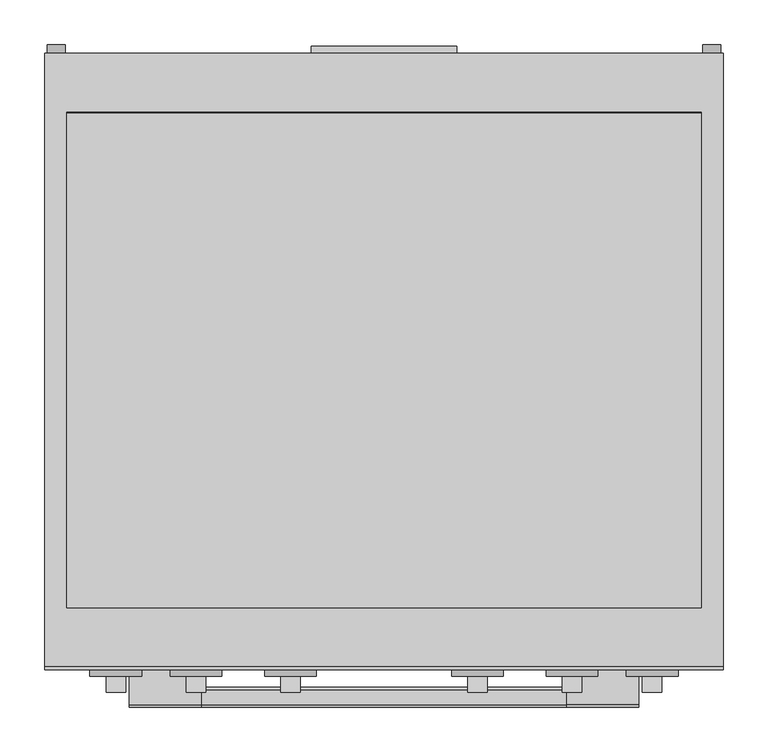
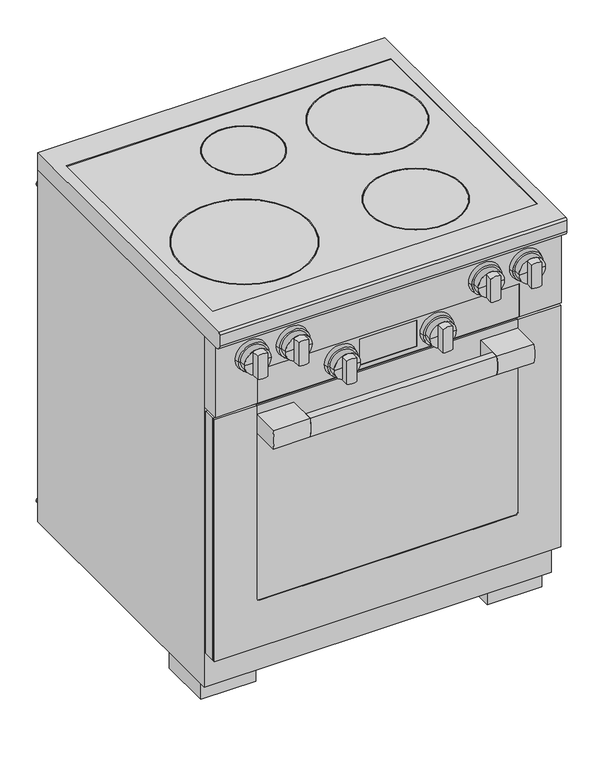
"""IFC4 building model written with IfcOpenShell, lengths in millimetres: proxy geometry, 12298850_USA_HR1422-3_EDST-CLST : 25142281_USA_12298850_HR1422-3_EDST-CLST."""

from ifc_helpers import new_model, si_unit, point, frame, frame_2d, origin, origin_with_axes, place, context, project, spatial, polyline, circle_curve, trimmed, segment, composite_curve, outline, extrude, faceted_brep, source, transform, mapped, element, save
from ifc_brep_helpers import plane_surface, cylinder_surface, revolved_surface, advanced_brep


def specialty_equipment_d15e6850(model_context):
    return source(origin(), model_context, "Body", "SolidModel", [
        extrude(outline(polyline([(-351.0, -617.0), (351.0, -617.0), (351.0, -638.0), (-351.0, -638.0), (-351.0, -617.0)])), frame((0.0, 0.0, 133.0), z_axis=(0.0, 0.0, 1.0), x_axis=(1.0, 0.0, 0.0)), (0.0, 0.0, 1.0), 550.0),
        advanced_brep(
        [(287.0, -664.7, 688.0), (380.0, -664.7, 688.0), (380.0, -664.7, 127.0), (-380.0, -664.7, 127.0), (-380.0, -664.7, 688.0), (-287.0, -664.7, 688.0), (-287.0, -664.7, 687.0), (-379.0, -664.7, 687.0), (-379.0, -664.7, 128.0), (379.0, -664.7, 128.0), (379.0, -664.7, 687.0), (287.0, -664.7, 687.0), (-287.0, -670.0, 688.0), (-380.0, -670.0, 688.0), (-380.0, -670.0, 127.0), (380.0, -670.0, 127.0), (380.0, -670.0, 688.0), (287.0, -670.0, 688.0), (287.0, -670.0, 241.0), (281.0, -670.0, 235.0), (-281.0, -670.0, 235.0), (-287.0, -670.0, 241.0), (-287.0, -668.7, 241.0), (-287.0, -668.7, 687.0), (281.0, -668.7, 235.0), (-281.0, -668.7, 235.0), (287.0, -668.7, 687.0), (287.0, -668.7, 241.0), (379.0, -668.7, 687.0), (379.0, -668.7, 128.0), (-379.0, -668.7, 128.0), (-379.0, -668.7, 687.0)],
        [
            (0, 1),
            (1, 2),
            (2, 3),
            (3, 4),
            (4, 5),
            (5, 6),
            (6, 7),
            (7, 8),
            (8, 9),
            (9, 10),
            (10, 11),
            (11, 0),
            (12, 13),
            (13, 14),
            (14, 15),
            (15, 16),
            (16, 17),
            (17, 18),
            (18, 19, circle_curve(frame((281.0, -670.0, 241.0), z_axis=(0.0, 1.0, 0.0), x_axis=(-1.0, 0.0, 0.0)), 6.0)),
            (19, 20),
            (20, 21, circle_curve(frame((-281.0, -670.0, 241.0), z_axis=(0.0, 1.0, 0.0), x_axis=(-1.0, 0.0, 0.0)), 6.0)),
            (21, 12),
            (21, 22),
            (22, 23),
            (23, 6),
            (5, 12),
            (19, 24),
            (24, 25),
            (25, 20),
            (17, 0),
            (11, 26),
            (26, 27),
            (27, 18),
            (16, 1),
            (15, 2),
            (14, 3),
            (13, 4),
            (25, 22, circle_curve(frame((-281.0, -668.7, 241.0), z_axis=(0.0, 1.0, 0.0), x_axis=(-1.0, 0.0, 0.0)), 6.0)),
            (27, 24, circle_curve(frame((281.0, -668.7, 241.0), z_axis=(0.0, 1.0, 0.0), x_axis=(-1.0, 0.0, 0.0)), 6.0)),
            (28, 29),
            (29, 30),
            (30, 31),
            (31, 23),
            (26, 28),
            (28, 10),
            (9, 29),
            (8, 30),
            (7, 31),
        ],
        [
            plane_surface(frame((-287.0, -664.7, 241.0), z_axis=(0.0, 1.0, 0.0), x_axis=(0.0, 0.0, -1.0))),
            plane_surface(frame((-287.0, -670.0, 241.0), z_axis=(0.0, -1.0, 0.0), x_axis=(0.0, 0.0, 1.0))),
            plane_surface(frame((-287.0, -664.7, 688.0), z_axis=(1.0, 0.0, 0.0), x_axis=(0.0, -1.0, 0.0))),
            plane_surface(frame((-281.0, -664.7, 235.0), z_axis=(0.0, 0.0, 1.0), x_axis=(0.0, -1.0, 0.0))),
            plane_surface(frame((287.0, -664.7, 241.0), z_axis=(-1.0, 0.0, 0.0), x_axis=(0.0, -1.0, 0.0))),
            plane_surface(frame((287.0, -664.7, 688.0), z_axis=(0.0, 0.0, 1.0), x_axis=(0.0, -1.0, 0.0))),
            plane_surface(frame((380.0, -664.7, 688.0), z_axis=(1.0, 0.0, 0.0), x_axis=(0.0, -1.0, 0.0))),
            plane_surface(frame((380.0, -664.7, 127.0), z_axis=(0.0, 0.0, -1.0), x_axis=(0.0, -1.0, 0.0))),
            plane_surface(frame((-380.0, -664.7, 127.0), z_axis=(-1.0, 0.0, 0.0), x_axis=(0.0, -1.0, 0.0))),
            plane_surface(frame((-380.0, -664.7, 688.0), z_axis=(0.0, 0.0, 1.0), x_axis=(0.0, -1.0, 0.0))),
            revolved_surface(polyline([(-287.0, -670.0, 241.0), (-287.0, -668.7, 241.0)]), (-281.0, -670.0, 241.0), (0.0, -1.0, 0.0)),
            revolved_surface(polyline([(275.0, -670.0, 241.0), (275.0, -668.7, 241.0)]), (281.0, -670.0, 241.0), (0.0, -1.0, 0.0)),
            plane_surface(frame((379.0, -668.7, 687.0), z_axis=(0.0, 1.0, 0.0), x_axis=(0.0, 0.0, 1.0))),
            plane_surface(frame((379.0, -664.7, 687.0), z_axis=(-1.0, 0.0, 0.0), x_axis=(0.0, -1.0, 0.0))),
            plane_surface(frame((379.0, -664.7, 128.0), z_axis=(0.0, 0.0, 1.0), x_axis=(0.0, -1.0, 0.0))),
            plane_surface(frame((-379.0, -664.7, 128.0), z_axis=(1.0, 0.0, 0.0), x_axis=(0.0, -1.0, 0.0))),
            plane_surface(frame((-379.0, -664.7, 687.0), z_axis=(0.0, 0.0, -1.0), x_axis=(0.0, -1.0, 0.0))),
        ],
        [
            (0, [[1, 2, 3, 4, 5, 6, 7, 8, 9, 10, 11, 12]]),
            (1, [[13, 14, 15, 16, 17, 18, 19, 20, 21, 22]]),
            (2, [[-22, 23, 24, 25, -6, 26]]),
            (3, [[-20, 27, 28, 29]]),
            (4, [[-18, 30, -12, 31, 32, 33]]),
            (5, [[-1, -30, -17, 34]]),
            (6, [[-2, -34, -16, 35]]),
            (7, [[-3, -35, -15, 36]]),
            (8, [[-4, -36, -14, 37]]),
            (9, [[-5, -37, -13, -26]]),
            (10, [[-21, -29, 38, -23]]),
            (11, [[-19, -33, 39, -27]]),
            (12, [[40, 41, 42, 43, -24, -38, -28, -39, -32, 44]]),
            (13, [[-40, 45, -10, 46]]),
            (14, [[-41, -46, -9, 47]]),
            (15, [[-42, -47, -8, 48]]),
            (16, [[-45, -44, -31, -11]]),
            (16, [[-48, -7, -25, -43]]),
        ],
    ),
        extrude(outline(polyline([(-379.0, -664.7), (379.0, -664.7), (379.0, -668.7), (-379.0, -668.7), (-379.0, -664.7)])), frame((0.0, 0.0, 128.0), z_axis=(0.0, 0.0, 1.0), x_axis=(1.0, 0.0, 0.0)), (0.0, 0.0, 1.0), 559.0),
        extrude(outline(polyline([(-380.0, -638.0), (380.0, -638.0), (380.0, -664.7), (-380.0, -664.7), (-380.0, -638.0)])), frame((0.0, 0.0, 127.0), z_axis=(0.0, 0.0, 1.0), x_axis=(1.0, 0.0, 0.0)), (0.0, 0.0, 1.0), 561.0),
        extrude(outline(composite_curve([segment(polyline([(-668.7, 667.0), (-668.7, 624.0), (-731.0, 624.0)]), True, "CONTINUOUS"), segment(trimmed(circle_curve(frame_2d((-655.4583333, 645.5)), 78.5416667), [point((-731.0, 624.0))], [point((-731.0, 667.0))], False, "CARTESIAN"), True, "CONTINUOUS"), segment(polyline([(-731.0, 667.0), (-668.7, 667.0)]), True, "CONTINUOUS")], self_intersect=False)), frame((-286.0, 0.0, 0.0), z_axis=(1.0, 0.0, 0.0), x_axis=(0.0, 1.0, 0.0)), (0.0, 0.0, 1.0), 81.0),
        extrude(outline(composite_curve([segment(polyline([(-731.0, 667.0), (-668.7, 667.0), (-668.7, 624.0), (-731.0, 624.0)]), True, "CONTINUOUS"), segment(trimmed(circle_curve(frame_2d((-655.4583333, 645.5)), 78.5416667), [point((-731.0, 624.0))], [point((-731.0, 667.0))], False, "CARTESIAN"), True, "CONTINUOUS")], self_intersect=False)), frame((205.0, 0.0, 0.0), z_axis=(1.0, 0.0, 0.0), x_axis=(0.0, 1.0, 0.0)), (0.0, 0.0, 1.0), 81.0),
        extrude(outline(composite_curve([segment(polyline([(-714.0, 624.0), (-731.0, 624.0)]), True, "CONTINUOUS"), segment(trimmed(circle_curve(frame_2d((-655.4583333, 645.5)), 78.5416667), [point((-731.0, 624.0))], [point((-731.0, 667.0))], False, "CARTESIAN"), True, "CONTINUOUS"), segment(polyline([(-731.0, 667.0), (-714.0, 667.0)]), True, "CONTINUOUS"), segment(trimmed(circle_curve(frame_2d((-789.5416667, 645.5)), 78.5416667), [point((-714.0, 667.0))], [point((-714.0, 624.0))], False, "CARTESIAN"), True, "CONTINUOUS")], self_intersect=False)), frame((-205.0, 0.0, 0.0), z_axis=(1.0, 0.0, 0.0), x_axis=(0.0, 1.0, 0.0)), (0.0, 0.0, 1.0), 410.0),
        advanced_brep(
        [(381.0, 0.0, 902.0), (381.0, -688.0, 902.0), (381.0, -692.0, 898.0), (381.0, -692.0, 872.0), (381.0, -682.0, 862.0), (381.0, 0.0, 862.0), (-381.0, 0.0, 902.0), (-381.0, 0.0, 862.0), (-381.0, -682.0, 862.0), (-381.0, -692.0, 872.0), (-381.0, -692.0, 898.0), (-381.0, -688.0, 902.0), (-356.0, -66.0, 902.0), (356.0, -66.0, 902.0), (356.0, -622.0, 902.0), (-356.0, -622.0, 902.0), (356.0, -66.0, 896.4), (-356.0, -66.0, 896.4), (-356.0, -622.0, 896.4), (356.0, -622.0, 896.4)],
        [
            (0, 1),
            (1, 2, circle_curve(frame((381.0, -688.0, 898.0), z_axis=(1.0, 0.0, 0.0), x_axis=(0.0, 0.0, 1.0)), 4.0)),
            (2, 3),
            (3, 4, circle_curve(frame((381.0, -682.0, 872.0), z_axis=(1.0, 0.0, 0.0), x_axis=(0.0, 0.0, 1.0)), 10.0)),
            (4, 5),
            (5, 0),
            (6, 7),
            (7, 8),
            (8, 9, circle_curve(frame((-381.0, -682.0, 872.0), z_axis=(-1.0, 0.0, 0.0), x_axis=(0.0, 0.0, 1.0)), 10.0)),
            (9, 10),
            (10, 11, circle_curve(frame((-381.0, -688.0, 898.0), z_axis=(-1.0, 0.0, 0.0), x_axis=(0.0, 0.0, 1.0)), 4.0)),
            (11, 6),
            (0, 6),
            (11, 1),
            (12, 13),
            (13, 14),
            (14, 15),
            (15, 12),
            (10, 2),
            (9, 3),
            (8, 4),
            (7, 5),
            (16, 17),
            (17, 18),
            (18, 19),
            (19, 16),
            (16, 13),
            (12, 17),
            (15, 18),
            (14, 19),
        ],
        [
            plane_surface(frame((381.0, -688.0, 902.0), z_axis=(1.0, 0.0, 0.0), x_axis=(0.0, -1.0, 0.0))),
            plane_surface(frame((-381.0, -688.0, 902.0), z_axis=(-1.0, 0.0, 0.0), x_axis=(0.0, 1.0, 0.0))),
            plane_surface(frame((381.0, 0.0, 902.0), z_axis=(0.0, 0.0, 1.0), x_axis=(-1.0, 0.0, 0.0))),
            cylinder_surface(frame((-381.0, -688.0, 898.0), z_axis=(1.0, 0.0, 0.0), x_axis=(0.0, 0.0, 1.0)), 4.0),
            plane_surface(frame((381.0, -692.0, 898.0), z_axis=(0.0, -1.0, 0.0), x_axis=(-1.0, 0.0, 0.0))),
            cylinder_surface(frame((-381.0, -682.0, 872.0), z_axis=(1.0, 0.0, 0.0), x_axis=(0.0, 0.0, 1.0)), 10.0),
            plane_surface(frame((381.0, -682.0, 862.0), z_axis=(0.0, 0.0, -1.0), x_axis=(-1.0, 0.0, 0.0))),
            plane_surface(frame((381.0, 0.0, 862.0), z_axis=(0.0, 1.0, 0.0), x_axis=(-1.0, 0.0, 0.0))),
            plane_surface(frame((-356.0, -66.0, 896.4), z_axis=(0.0, 0.0, 1.0), x_axis=(1.0, 0.0, 0.0))),
            plane_surface(frame((356.0, -66.0, 902.0), z_axis=(0.0, -1.0, 0.0), x_axis=(0.0, 0.0, -1.0))),
            plane_surface(frame((-356.0, -66.0, 902.0), z_axis=(1.0, 0.0, 0.0), x_axis=(0.0, 0.0, -1.0))),
            plane_surface(frame((-356.0, -622.0, 902.0), z_axis=(0.0, 1.0, 0.0), x_axis=(0.0, 0.0, -1.0))),
            plane_surface(frame((356.0, -622.0, 902.0), z_axis=(-1.0, 0.0, 0.0), x_axis=(0.0, 0.0, -1.0))),
        ],
        [
            (0, [[1, 2, 3, 4, 5, 6]]),
            (1, [[7, 8, 9, 10, 11, 12]]),
            (2, [[-1, 13, -12, 14], [15, 16, 17, 18]]),
            (3, [[-2, -14, -11, 19]]),
            (4, [[-3, -19, -10, 20]]),
            (5, [[-4, -20, -9, 21]]),
            (6, [[-5, -21, -8, 22]]),
            (7, [[-6, -22, -7, -13]]),
            (8, [[23, 24, 25, 26]]),
            (9, [[-23, 27, -15, 28]]),
            (10, [[-24, -28, -18, 29]]),
            (11, [[-25, -29, -17, 30]]),
            (12, [[-26, -30, -16, -27]]),
        ],
    ),
        extrude(outline(polyline([(356.0, -66.0), (356.0, -622.0), (-356.0, -622.0), (-356.0, -66.0), (356.0, -66.0)])), frame((0.0, 0.0, 896.4), z_axis=(0.0, 0.0, 1.0), x_axis=(1.0, 0.0, 0.0)), (0.0, 0.0, 1.0), 4.0),
        extrude(outline(polyline([(356.0, -67.0), (356.0, -633.0), (-356.0, -633.0), (-356.0, -67.0), (356.0, -67.0)])), frame((0.0, 0.0, 870.0), z_axis=(0.0, 0.0, 1.0), x_axis=(1.0, 0.0, 0.0)), (0.0, 0.0, 1.0), 31.0),
        extrude(outline(composite_curve([segment(trimmed(circle_curve(frame_2d((-38.0, -189.0)), 82.0), [point((44.0, -189.0))], [point((-120.0, -189.0))], False, "CARTESIAN"), True, "CONTINUOUS"), segment(trimmed(circle_curve(frame_2d((-38.0, -189.0)), 82.0), [point((-120.0, -189.0))], [point((44.0, -189.0))], False, "CARTESIAN"), True, "CONTINUOUS")], self_intersect=False), holes=[composite_curve([segment(trimmed(circle_curve(frame_2d((-38.0, -189.0)), 80.0), [point((42.0, -189.0))], [point((-118.0, -189.0))], True, "CARTESIAN"), True, "CONTINUOUS"), segment(trimmed(circle_curve(frame_2d((-38.0, -189.0)), 80.0), [point((-118.0, -189.0))], [point((42.0, -189.0))], True, "CARTESIAN"), True, "CONTINUOUS")], self_intersect=False)]), frame((0.0, 0.0, 900.4), z_axis=(0.0, 0.0, 1.0), x_axis=(1.0, 0.0, 0.0)), (0.0, 0.0, 1.0), 1.0),
        extrude(outline(composite_curve([segment(trimmed(circle_curve(frame_2d((217.0, -218.0)), 117.0), [point((334.0, -218.0))], [point((100.0, -218.0))], False, "CARTESIAN"), True, "CONTINUOUS"), segment(trimmed(circle_curve(frame_2d((217.0, -218.0)), 117.0), [point((100.0, -218.0))], [point((334.0, -218.0))], False, "CARTESIAN"), True, "CONTINUOUS")], self_intersect=False), holes=[composite_curve([segment(trimmed(circle_curve(frame_2d((217.0, -218.0)), 115.0), [point((332.0, -218.0))], [point((102.0, -218.0))], True, "CARTESIAN"), True, "CONTINUOUS"), segment(trimmed(circle_curve(frame_2d((217.0, -218.0)), 115.0), [point((102.0, -218.0))], [point((332.0, -218.0))], True, "CARTESIAN"), True, "CONTINUOUS")], self_intersect=False)]), frame((0.0, 0.0, 900.4), z_axis=(0.0, 0.0, 1.0), x_axis=(1.0, 0.0, 0.0)), (0.0, 0.0, 1.0), 1.0),
        extrude(outline(composite_curve([segment(trimmed(circle_curve(frame_2d((165.0, -492.0)), 102.0), [point((267.0, -492.0))], [point((63.0, -492.0))], False, "CARTESIAN"), True, "CONTINUOUS"), segment(trimmed(circle_curve(frame_2d((165.0, -492.0)), 102.0), [point((63.0, -492.0))], [point((267.0, -492.0))], False, "CARTESIAN"), True, "CONTINUOUS")], self_intersect=False), holes=[composite_curve([segment(trimmed(circle_curve(frame_2d((165.0, -492.0)), 100.0), [point((265.0, -492.0))], [point((65.0, -492.0))], True, "CARTESIAN"), True, "CONTINUOUS"), segment(trimmed(circle_curve(frame_2d((165.0, -492.0)), 100.0), [point((65.0, -492.0))], [point((265.0, -492.0))], True, "CARTESIAN"), True, "CONTINUOUS")], self_intersect=False)]), frame((0.0, 0.0, 900.4), z_axis=(0.0, 0.0, 1.0), x_axis=(1.0, 0.0, 0.0)), (0.0, 0.0, 1.0), 1.0),
        extrude(outline(composite_curve([segment(trimmed(circle_curve(frame_2d((-188.0, -452.0)), 142.0), [point((-46.0, -452.0))], [point((-330.0, -452.0))], False, "CARTESIAN"), True, "CONTINUOUS"), segment(trimmed(circle_curve(frame_2d((-188.0, -452.0)), 142.0), [point((-330.0, -452.0))], [point((-46.0, -452.0))], False, "CARTESIAN"), True, "CONTINUOUS")], self_intersect=False), holes=[composite_curve([segment(trimmed(circle_curve(frame_2d((-188.0, -452.0)), 140.0), [point((-48.0, -452.0))], [point((-328.0, -452.0))], True, "CARTESIAN"), True, "CONTINUOUS"), segment(trimmed(circle_curve(frame_2d((-188.0, -452.0)), 140.0), [point((-328.0, -452.0))], [point((-48.0, -452.0))], True, "CARTESIAN"), True, "CONTINUOUS")], self_intersect=False)]), frame((0.0, 0.0, 900.4), z_axis=(0.0, 0.0, 1.0), x_axis=(1.0, 0.0, 0.0)), (0.0, 0.0, 1.0), 1.0),
        advanced_brep(
        [(301.0, -683.0, 813.0), (330.0, -683.0, 813.0), (272.0, -683.0, 813.0), (272.0, -699.0, 813.0), (330.0, -699.0, 813.0), (301.0, -699.0, 813.0)],
        [
            (0, 1),
            (1, 2, circle_curve(frame((301.0, -683.0, 813.0), z_axis=(0.0, 1.0, 0.0), x_axis=(1.0, 0.0, 0.0)), 29.0)),
            (2, 0),
            (2, 1, circle_curve(frame((301.0, -683.0, 813.0), z_axis=(0.0, 1.0, 0.0), x_axis=(1.0, 0.0, 0.0)), 29.0)),
            (3, 4, circle_curve(frame((301.0, -699.0, 813.0), z_axis=(0.0, -1.0, 0.0), x_axis=(1.0, 0.0, 0.0)), 29.0)),
            (4, 5),
            (5, 3),
            (4, 3, circle_curve(frame((301.0, -699.0, 813.0), z_axis=(0.0, -1.0, 0.0), x_axis=(1.0, 0.0, 0.0)), 29.0)),
            (1, 4),
            (3, 2),
        ],
        [
            plane_surface(frame((301.0, -683.0, 813.0), z_axis=(0.0, 1.0, 0.0), x_axis=(1.0, 0.0, 0.0))),
            plane_surface(frame((301.0, -699.0, 813.0), z_axis=(0.0, -1.0, 0.0), x_axis=(1.0, 0.0, 0.0))),
            cylinder_surface(frame((301.0, 751.3738435, 813.0), z_axis=(0.0, 1.0, 0.0), x_axis=(1.0, 0.0, 0.0)), 29.0),
        ],
        [
            (0, [[1, 2, 3]]),
            (0, [[-3, 4, -1]]),
            (1, [[5, 6, 7]]),
            (1, [[8, -7, -6]]),
            (2, [[-2, 9, -5, 10]]),
            (2, [[-4, -10, -8, -9]]),
        ],
    ),
        extrude(outline(composite_curve([segment(polyline([(786.1671843, 312.0), (839.8328157, 312.0)]), True, "CONTINUOUS"), segment(trimmed(circle_curve(frame_2d((813.0, 301.0)), 29.0), [point((839.8328157, 312.0))], [point((839.8328157, 290.0))], False, "CARTESIAN"), True, "CONTINUOUS"), segment(polyline([(839.8328157, 290.0), (786.1671843, 290.0)]), True, "CONTINUOUS"), segment(trimmed(circle_curve(frame_2d((813.0, 301.0)), 29.0), [point((786.1671843, 290.0))], [point((786.1671843, 312.0))], False, "CARTESIAN"), True, "CONTINUOUS")], self_intersect=False)), frame((0.0, -717.0, 0.0), z_axis=(0.0, 1.0, 0.0), x_axis=(0.0, 0.0, 1.0)), (0.0, 0.0, 1.0), 18.0),
        advanced_brep(
        [(211.0, -683.0, 813.0), (240.0, -683.0, 813.0), (182.0, -683.0, 813.0), (182.0, -699.0, 813.0), (240.0, -699.0, 813.0), (211.0, -699.0, 813.0)],
        [
            (0, 1),
            (1, 2, circle_curve(frame((211.0, -683.0, 813.0), z_axis=(0.0, 1.0, 0.0), x_axis=(1.0, 0.0, 0.0)), 29.0)),
            (2, 0),
            (2, 1, circle_curve(frame((211.0, -683.0, 813.0), z_axis=(0.0, 1.0, 0.0), x_axis=(1.0, 0.0, 0.0)), 29.0)),
            (3, 4, circle_curve(frame((211.0, -699.0, 813.0), z_axis=(0.0, -1.0, 0.0), x_axis=(1.0, 0.0, 0.0)), 29.0)),
            (4, 5),
            (5, 3),
            (4, 3, circle_curve(frame((211.0, -699.0, 813.0), z_axis=(0.0, -1.0, 0.0), x_axis=(1.0, 0.0, 0.0)), 29.0)),
            (1, 4),
            (3, 2),
        ],
        [
            plane_surface(frame((211.0, -683.0, 813.0), z_axis=(0.0, 1.0, 0.0), x_axis=(1.0, 0.0, 0.0))),
            plane_surface(frame((211.0, -699.0, 813.0), z_axis=(0.0, -1.0, 0.0), x_axis=(1.0, 0.0, 0.0))),
            cylinder_surface(frame((211.0, 751.3738435, 813.0), z_axis=(0.0, 1.0, 0.0), x_axis=(1.0, 0.0, 0.0)), 29.0),
        ],
        [
            (0, [[1, 2, 3]]),
            (0, [[-3, 4, -1]]),
            (1, [[5, 6, 7]]),
            (1, [[8, -7, -6]]),
            (2, [[-2, 9, -5, 10]]),
            (2, [[-4, -10, -8, -9]]),
        ],
    ),
        advanced_brep(
        [(-211.0, -683.0, 813.0), (-182.0, -683.0, 813.0), (-240.0, -683.0, 813.0), (-240.0, -699.0, 813.0), (-182.0, -699.0, 813.0), (-211.0, -699.0, 813.0)],
        [
            (0, 1),
            (1, 2, circle_curve(frame((-211.0, -683.0, 813.0), z_axis=(0.0, 1.0, 0.0), x_axis=(1.0, 0.0, 0.0)), 29.0)),
            (2, 0),
            (2, 1, circle_curve(frame((-211.0, -683.0, 813.0), z_axis=(0.0, 1.0, 0.0), x_axis=(1.0, 0.0, 0.0)), 29.0)),
            (3, 4, circle_curve(frame((-211.0, -699.0, 813.0), z_axis=(0.0, -1.0, 0.0), x_axis=(1.0, 0.0, 0.0)), 29.0)),
            (4, 5),
            (5, 3),
            (4, 3, circle_curve(frame((-211.0, -699.0, 813.0), z_axis=(0.0, -1.0, 0.0), x_axis=(1.0, 0.0, 0.0)), 29.0)),
            (1, 4),
            (3, 2),
        ],
        [
            plane_surface(frame((-211.0, -683.0, 813.0), z_axis=(0.0, 1.0, 0.0), x_axis=(1.0, 0.0, 0.0))),
            plane_surface(frame((-211.0, -699.0, 813.0), z_axis=(0.0, -1.0, 0.0), x_axis=(1.0, 0.0, 0.0))),
            cylinder_surface(frame((-211.0, 751.3738435, 813.0), z_axis=(0.0, 1.0, 0.0), x_axis=(1.0, 0.0, 0.0)), 29.0),
        ],
        [
            (0, [[1, 2, 3]]),
            (0, [[-3, 4, -1]]),
            (1, [[5, 6, 7]]),
            (1, [[8, -7, -6]]),
            (2, [[-2, 9, -5, 10]]),
            (2, [[-4, -10, -8, -9]]),
        ],
    ),
        advanced_brep(
        [(-301.0, -683.0, 813.0), (-272.0, -683.0, 813.0), (-330.0, -683.0, 813.0), (-330.0, -699.0, 813.0), (-272.0, -699.0, 813.0), (-301.0, -699.0, 813.0)],
        [
            (0, 1),
            (1, 2, circle_curve(frame((-301.0, -683.0, 813.0), z_axis=(0.0, 1.0, 0.0), x_axis=(1.0, 0.0, 0.0)), 29.0)),
            (2, 0),
            (2, 1, circle_curve(frame((-301.0, -683.0, 813.0), z_axis=(0.0, 1.0, 0.0), x_axis=(1.0, 0.0, 0.0)), 29.0)),
            (3, 4, circle_curve(frame((-301.0, -699.0, 813.0), z_axis=(0.0, -1.0, 0.0), x_axis=(1.0, 0.0, 0.0)), 29.0)),
            (4, 5),
            (5, 3),
            (4, 3, circle_curve(frame((-301.0, -699.0, 813.0), z_axis=(0.0, -1.0, 0.0), x_axis=(1.0, 0.0, 0.0)), 29.0)),
            (1, 4),
            (3, 2),
        ],
        [
            plane_surface(frame((-301.0, -683.0, 813.0), z_axis=(0.0, 1.0, 0.0), x_axis=(1.0, 0.0, 0.0))),
            plane_surface(frame((-301.0, -699.0, 813.0), z_axis=(0.0, -1.0, 0.0), x_axis=(1.0, 0.0, 0.0))),
            cylinder_surface(frame((-301.0, 751.3738435, 813.0), z_axis=(0.0, 1.0, 0.0), x_axis=(1.0, 0.0, 0.0)), 29.0),
        ],
        [
            (0, [[1, 2, 3]]),
            (0, [[-3, 4, -1]]),
            (1, [[5, 6, 7]]),
            (1, [[8, -7, -6]]),
            (2, [[-2, 9, -5, 10]]),
            (2, [[-4, -10, -8, -9]]),
        ],
    ),
        extrude(outline(composite_curve([segment(trimmed(circle_curve(frame_2d((813.0, 211.0)), 29.0), [point((786.1671843, 200.0))], [point((786.1671843, 222.0))], False, "CARTESIAN"), True, "CONTINUOUS"), segment(polyline([(786.1671843, 222.0), (839.8328157, 222.0)]), True, "CONTINUOUS"), segment(trimmed(circle_curve(frame_2d((813.0, 211.0)), 29.0), [point((839.8328157, 222.0))], [point((839.8328157, 200.0))], False, "CARTESIAN"), True, "CONTINUOUS"), segment(polyline([(839.8328157, 200.0), (786.1671843, 200.0)]), True, "CONTINUOUS")], self_intersect=False)), frame((0.0, -717.0, 0.0), z_axis=(0.0, 1.0, 0.0), x_axis=(0.0, 0.0, 1.0)), (0.0, 0.0, 1.0), 18.0),
        extrude(outline(composite_curve([segment(polyline([(839.8328157, -222.0), (786.1671843, -222.0)]), True, "CONTINUOUS"), segment(trimmed(circle_curve(frame_2d((813.0, -211.0)), 29.0), [point((786.1671843, -222.0))], [point((786.1671843, -200.0))], False, "CARTESIAN"), True, "CONTINUOUS"), segment(polyline([(786.1671843, -200.0), (839.8328157, -200.0)]), True, "CONTINUOUS"), segment(trimmed(circle_curve(frame_2d((813.0, -211.0)), 29.0), [point((839.8328157, -200.0))], [point((839.8328157, -222.0))], False, "CARTESIAN"), True, "CONTINUOUS")], self_intersect=False)), frame((0.0, -717.0, 0.0), z_axis=(0.0, 1.0, 0.0), x_axis=(0.0, 0.0, 1.0)), (0.0, 0.0, 1.0), 18.0),
        extrude(outline(composite_curve([segment(polyline([(839.8328157, -312.0), (786.1671843, -312.0)]), True, "CONTINUOUS"), segment(trimmed(circle_curve(frame_2d((813.0, -301.0)), 29.0), [point((786.1671843, -312.0))], [point((786.1671843, -290.0))], False, "CARTESIAN"), True, "CONTINUOUS"), segment(polyline([(786.1671843, -290.0), (839.8328157, -290.0)]), True, "CONTINUOUS"), segment(trimmed(circle_curve(frame_2d((813.0, -301.0)), 29.0), [point((839.8328157, -290.0))], [point((839.8328157, -312.0))], False, "CARTESIAN"), True, "CONTINUOUS")], self_intersect=False)), frame((0.0, -717.0, 0.0), z_axis=(0.0, 1.0, 0.0), x_axis=(0.0, 0.0, 1.0)), (0.0, 0.0, 1.0), 18.0),
        advanced_brep(
        [(105.0, -683.0, 733.0), (134.0, -683.0, 733.0), (76.0, -683.0, 733.0), (76.0, -699.0, 733.0), (134.0, -699.0, 733.0), (105.0, -699.0, 733.0)],
        [
            (0, 1),
            (1, 2, circle_curve(frame((105.0, -683.0, 733.0), z_axis=(0.0, 1.0, 0.0), x_axis=(1.0, 0.0, 0.0)), 29.0)),
            (2, 0),
            (2, 1, circle_curve(frame((105.0, -683.0, 733.0), z_axis=(0.0, 1.0, 0.0), x_axis=(1.0, 0.0, 0.0)), 29.0)),
            (3, 4, circle_curve(frame((105.0, -699.0, 733.0), z_axis=(0.0, -1.0, 0.0), x_axis=(1.0, 0.0, 0.0)), 29.0)),
            (4, 5),
            (5, 3),
            (4, 3, circle_curve(frame((105.0, -699.0, 733.0), z_axis=(0.0, -1.0, 0.0), x_axis=(1.0, 0.0, 0.0)), 29.0)),
            (1, 4),
            (3, 2),
        ],
        [
            plane_surface(frame((105.0, -683.0, 733.0), z_axis=(0.0, 1.0, 0.0), x_axis=(1.0, 0.0, 0.0))),
            plane_surface(frame((105.0, -699.0, 733.0), z_axis=(0.0, -1.0, 0.0), x_axis=(1.0, 0.0, 0.0))),
            cylinder_surface(frame((105.0, 751.3738435, 733.0), z_axis=(0.0, 1.0, 0.0), x_axis=(1.0, 0.0, 0.0)), 29.0),
        ],
        [
            (0, [[1, 2, 3]]),
            (0, [[-3, 4, -1]]),
            (1, [[5, 6, 7]]),
            (1, [[8, -7, -6]]),
            (2, [[-2, 9, -5, 10]]),
            (2, [[-4, -10, -8, -9]]),
        ],
    ),
        advanced_brep(
        [(-105.0, -683.0, 733.0), (-76.0, -683.0, 733.0), (-134.0, -683.0, 733.0), (-134.0, -699.0, 733.0), (-76.0, -699.0, 733.0), (-105.0, -699.0, 733.0)],
        [
            (0, 1),
            (1, 2, circle_curve(frame((-105.0, -683.0, 733.0), z_axis=(0.0, 1.0, 0.0), x_axis=(1.0, 0.0, 0.0)), 29.0)),
            (2, 0),
            (2, 1, circle_curve(frame((-105.0, -683.0, 733.0), z_axis=(0.0, 1.0, 0.0), x_axis=(1.0, 0.0, 0.0)), 29.0)),
            (3, 4, circle_curve(frame((-105.0, -699.0, 733.0), z_axis=(0.0, -1.0, 0.0), x_axis=(1.0, 0.0, 0.0)), 29.0)),
            (4, 5),
            (5, 3),
            (4, 3, circle_curve(frame((-105.0, -699.0, 733.0), z_axis=(0.0, -1.0, 0.0), x_axis=(1.0, 0.0, 0.0)), 29.0)),
            (1, 4),
            (3, 2),
        ],
        [
            plane_surface(frame((-105.0, -683.0, 733.0), z_axis=(0.0, 1.0, 0.0), x_axis=(1.0, 0.0, 0.0))),
            plane_surface(frame((-105.0, -699.0, 733.0), z_axis=(0.0, -1.0, 0.0), x_axis=(1.0, 0.0, 0.0))),
            cylinder_surface(frame((-105.0, 751.3738435, 733.0), z_axis=(0.0, 1.0, 0.0), x_axis=(1.0, 0.0, 0.0)), 29.0),
        ],
        [
            (0, [[1, 2, 3]]),
            (0, [[-3, 4, -1]]),
            (1, [[5, 6, 7]]),
            (1, [[8, -7, -6]]),
            (2, [[-2, 9, -5, 10]]),
            (2, [[-4, -10, -8, -9]]),
        ],
    ),
        extrude(outline(composite_curve([segment(polyline([(759.8328157, -116.0), (706.1671843, -116.0)]), True, "CONTINUOUS"), segment(trimmed(circle_curve(frame_2d((733.0, -105.0)), 29.0), [point((706.1671843, -116.0))], [point((706.1671843, -94.0))], False, "CARTESIAN"), True, "CONTINUOUS"), segment(polyline([(706.1671843, -94.0), (759.8328157, -94.0)]), True, "CONTINUOUS"), segment(trimmed(circle_curve(frame_2d((733.0, -105.0)), 29.0), [point((759.8328157, -94.0))], [point((759.8328157, -116.0))], False, "CARTESIAN"), True, "CONTINUOUS")], self_intersect=False)), frame((0.0, -717.0, 0.0), z_axis=(0.0, 1.0, 0.0), x_axis=(0.0, 0.0, 1.0)), (0.0, 0.0, 1.0), 18.0),
        extrude(outline(composite_curve([segment(polyline([(759.8328157, 94.0), (706.1671843, 94.0)]), True, "CONTINUOUS"), segment(trimmed(circle_curve(frame_2d((733.0, 105.0)), 29.0), [point((706.1671843, 94.0))], [point((706.1671843, 116.0))], False, "CARTESIAN"), True, "CONTINUOUS"), segment(polyline([(706.1671843, 116.0), (759.8328157, 116.0)]), True, "CONTINUOUS"), segment(trimmed(circle_curve(frame_2d((733.0, 105.0)), 29.0), [point((759.8328157, 116.0))], [point((759.8328157, 94.0))], False, "CARTESIAN"), True, "CONTINUOUS")], self_intersect=False)), frame((0.0, -717.0, 0.0), z_axis=(0.0, 1.0, 0.0), x_axis=(0.0, 0.0, 1.0)), (0.0, 0.0, 1.0), 18.0),
        advanced_brep(
        [(267.7632698, -683.0, 813.0), (334.2367302, -683.0, 813.0), (301.0, -683.0, 813.0), (266.0, -673.0, 813.0), (336.0, -673.0, 813.0), (301.0, -673.0, 813.0)],
        [
            (0, 1, circle_curve(frame((301.0, -683.0, 813.0), z_axis=(0.0, -1.0, 0.0), x_axis=(1.0, 0.0, 0.0)), 33.2367302)),
            (1, 2),
            (2, 0),
            (1, 0, circle_curve(frame((301.0, -683.0, 813.0), z_axis=(0.0, -1.0, 0.0), x_axis=(1.0, 0.0, 0.0)), 33.2367302)),
            (3, 4, circle_curve(frame((301.0, -673.0, 813.0), z_axis=(0.0, -1.0, 0.0), x_axis=(1.0, 0.0, 0.0)), 35.0)),
            (4, 1),
            (0, 3),
            (4, 3, circle_curve(frame((301.0, -673.0, 813.0), z_axis=(0.0, -1.0, 0.0), x_axis=(1.0, 0.0, 0.0)), 35.0)),
            (5, 4),
            (3, 5),
        ],
        [
            plane_surface(frame((301.0, -683.0, 813.0), z_axis=(0.0, -1.0, 0.0), x_axis=(1.0, 0.0, 0.0))),
            revolved_surface(polyline([(334.2367302, -683.0, 813.0), (336.0, -673.0, 813.0)]), (301.0, 751.3738435, 813.0), (0.0, 1.0, 0.0)),
            plane_surface(frame((301.0, -673.0, 813.0), z_axis=(0.0, 1.0, 0.0), x_axis=(1.0, 0.0, 0.0))),
        ],
        [
            (0, [[1, 2, 3]]),
            (0, [[4, -3, -2]]),
            (1, [[5, 6, -1, 7]]),
            (1, [[8, -7, -4, -6]]),
            (2, [[9, -5, 10]]),
            (2, [[-10, -8, -9]]),
        ],
    ),
        advanced_brep(
        [(177.7632698, -683.0, 813.0), (244.2367302, -683.0, 813.0), (211.0, -683.0, 813.0), (176.0, -673.0, 813.0), (246.0, -673.0, 813.0), (211.0, -673.0, 813.0)],
        [
            (0, 1, circle_curve(frame((211.0, -683.0, 813.0), z_axis=(0.0, -1.0, 0.0), x_axis=(1.0, 0.0, 0.0)), 33.2367302)),
            (1, 2),
            (2, 0),
            (1, 0, circle_curve(frame((211.0, -683.0, 813.0), z_axis=(0.0, -1.0, 0.0), x_axis=(1.0, 0.0, 0.0)), 33.2367302)),
            (3, 4, circle_curve(frame((211.0, -673.0, 813.0), z_axis=(0.0, -1.0, 0.0), x_axis=(1.0, 0.0, 0.0)), 35.0)),
            (4, 1),
            (0, 3),
            (4, 3, circle_curve(frame((211.0, -673.0, 813.0), z_axis=(0.0, -1.0, 0.0), x_axis=(1.0, 0.0, 0.0)), 35.0)),
            (5, 4),
            (3, 5),
        ],
        [
            plane_surface(frame((211.0, -683.0, 813.0), z_axis=(0.0, -1.0, 0.0), x_axis=(1.0, 0.0, 0.0))),
            revolved_surface(polyline([(244.2367302, -683.0, 813.0), (246.0, -673.0, 813.0)]), (211.0, 751.3738435, 813.0), (0.0, 1.0, 0.0)),
            plane_surface(frame((211.0, -673.0, 813.0), z_axis=(0.0, 1.0, 0.0), x_axis=(1.0, 0.0, 0.0))),
        ],
        [
            (0, [[1, 2, 3]]),
            (0, [[4, -3, -2]]),
            (1, [[5, 6, -1, 7]]),
            (1, [[8, -7, -4, -6]]),
            (2, [[9, -5, 10]]),
            (2, [[-10, -8, -9]]),
        ],
    ),
        advanced_brep(
        [(-244.2367302, -683.0, 813.0), (-177.7632698, -683.0, 813.0), (-211.0, -683.0, 813.0), (-246.0, -673.0, 813.0), (-176.0, -673.0, 813.0), (-211.0, -673.0, 813.0)],
        [
            (0, 1, circle_curve(frame((-211.0, -683.0, 813.0), z_axis=(0.0, -1.0, 0.0), x_axis=(1.0, 0.0, 0.0)), 33.2367302)),
            (1, 2),
            (2, 0),
            (1, 0, circle_curve(frame((-211.0, -683.0, 813.0), z_axis=(0.0, -1.0, 0.0), x_axis=(1.0, 0.0, 0.0)), 33.2367302)),
            (3, 4, circle_curve(frame((-211.0, -673.0, 813.0), z_axis=(0.0, -1.0, 0.0), x_axis=(1.0, 0.0, 0.0)), 35.0)),
            (4, 1),
            (0, 3),
            (4, 3, circle_curve(frame((-211.0, -673.0, 813.0), z_axis=(0.0, -1.0, 0.0), x_axis=(1.0, 0.0, 0.0)), 35.0)),
            (5, 4),
            (3, 5),
        ],
        [
            plane_surface(frame((-211.0, -683.0, 813.0), z_axis=(0.0, -1.0, 0.0), x_axis=(1.0, 0.0, 0.0))),
            revolved_surface(polyline([(-177.7632698, -683.0, 813.0), (-176.0, -673.0, 813.0)]), (-211.0, 751.3738435, 813.0), (0.0, 1.0, 0.0)),
            plane_surface(frame((-211.0, -673.0, 813.0), z_axis=(0.0, 1.0, 0.0), x_axis=(1.0, 0.0, 0.0))),
        ],
        [
            (0, [[1, 2, 3]]),
            (0, [[4, -3, -2]]),
            (1, [[5, 6, -1, 7]]),
            (1, [[8, -7, -4, -6]]),
            (2, [[9, -5, 10]]),
            (2, [[-10, -8, -9]]),
        ],
    ),
        advanced_brep(
        [(-334.2367302, -683.0, 813.0), (-267.7632698, -683.0, 813.0), (-301.0, -683.0, 813.0), (-336.0, -673.0, 813.0), (-266.0, -673.0, 813.0), (-301.0, -673.0, 813.0)],
        [
            (0, 1, circle_curve(frame((-301.0, -683.0, 813.0), z_axis=(0.0, -1.0, 0.0), x_axis=(1.0, 0.0, 0.0)), 33.2367302)),
            (1, 2),
            (2, 0),
            (1, 0, circle_curve(frame((-301.0, -683.0, 813.0), z_axis=(0.0, -1.0, 0.0), x_axis=(1.0, 0.0, 0.0)), 33.2367302)),
            (3, 4, circle_curve(frame((-301.0, -673.0, 813.0), z_axis=(0.0, -1.0, 0.0), x_axis=(1.0, 0.0, 0.0)), 35.0)),
            (4, 1),
            (0, 3),
            (4, 3, circle_curve(frame((-301.0, -673.0, 813.0), z_axis=(0.0, -1.0, 0.0), x_axis=(1.0, 0.0, 0.0)), 35.0)),
            (5, 4),
            (3, 5),
        ],
        [
            plane_surface(frame((-301.0, -683.0, 813.0), z_axis=(0.0, -1.0, 0.0), x_axis=(1.0, 0.0, 0.0))),
            revolved_surface(polyline([(-267.7632698, -683.0, 813.0), (-266.0, -673.0, 813.0)]), (-301.0, 751.3738435, 813.0), (0.0, 1.0, 0.0)),
            plane_surface(frame((-301.0, -673.0, 813.0), z_axis=(0.0, 1.0, 0.0), x_axis=(1.0, 0.0, 0.0))),
        ],
        [
            (0, [[1, 2, 3]]),
            (0, [[4, -3, -2]]),
            (1, [[5, 6, -1, 7]]),
            (1, [[8, -7, -4, -6]]),
            (2, [[9, -5, 10]]),
            (2, [[-10, -8, -9]]),
        ],
    ),
        advanced_brep(
        [(71.7632698, -683.0, 733.0), (138.2367302, -683.0, 733.0), (105.0, -683.0, 733.0), (70.0, -673.0, 733.0), (140.0, -673.0, 733.0), (105.0, -673.0, 733.0)],
        [
            (0, 1, circle_curve(frame((105.0, -683.0, 733.0), z_axis=(0.0, -1.0, 0.0), x_axis=(1.0, 0.0, 0.0)), 33.2367302)),
            (1, 2),
            (2, 0),
            (1, 0, circle_curve(frame((105.0, -683.0, 733.0), z_axis=(0.0, -1.0, 0.0), x_axis=(1.0, 0.0, 0.0)), 33.2367302)),
            (3, 4, circle_curve(frame((105.0, -673.0, 733.0), z_axis=(0.0, -1.0, 0.0), x_axis=(1.0, 0.0, 0.0)), 35.0)),
            (4, 1),
            (0, 3),
            (4, 3, circle_curve(frame((105.0, -673.0, 733.0), z_axis=(0.0, -1.0, 0.0), x_axis=(1.0, 0.0, 0.0)), 35.0)),
            (5, 4),
            (3, 5),
        ],
        [
            plane_surface(frame((105.0, -683.0, 733.0), z_axis=(0.0, -1.0, 0.0), x_axis=(1.0, 0.0, 0.0))),
            revolved_surface(polyline([(138.2367302, -683.0, 733.0), (140.0, -673.0, 733.0)]), (105.0, 751.3738435, 733.0), (0.0, 1.0, 0.0)),
            plane_surface(frame((105.0, -673.0, 733.0), z_axis=(0.0, 1.0, 0.0), x_axis=(1.0, 0.0, 0.0))),
        ],
        [
            (0, [[1, 2, 3]]),
            (0, [[4, -3, -2]]),
            (1, [[5, 6, -1, 7]]),
            (1, [[8, -7, -4, -6]]),
            (2, [[9, -5, 10]]),
            (2, [[-10, -8, -9]]),
        ],
    ),
        advanced_brep(
        [(-138.2367302, -683.0, 733.0), (-71.7632698, -683.0, 733.0), (-105.0, -683.0, 733.0), (-140.0, -673.0, 733.0), (-70.0, -673.0, 733.0), (-105.0, -673.0, 733.0)],
        [
            (0, 1, circle_curve(frame((-105.0, -683.0, 733.0), z_axis=(0.0, -1.0, 0.0), x_axis=(1.0, 0.0, 0.0)), 33.2367302)),
            (1, 2),
            (2, 0),
            (1, 0, circle_curve(frame((-105.0, -683.0, 733.0), z_axis=(0.0, -1.0, 0.0), x_axis=(1.0, 0.0, 0.0)), 33.2367302)),
            (3, 4, circle_curve(frame((-105.0, -673.0, 733.0), z_axis=(0.0, -1.0, 0.0), x_axis=(1.0, 0.0, 0.0)), 35.0)),
            (4, 1),
            (0, 3),
            (4, 3, circle_curve(frame((-105.0, -673.0, 733.0), z_axis=(0.0, -1.0, 0.0), x_axis=(1.0, 0.0, 0.0)), 35.0)),
            (5, 4),
            (3, 5),
        ],
        [
            plane_surface(frame((-105.0, -683.0, 733.0), z_axis=(0.0, -1.0, 0.0), x_axis=(1.0, 0.0, 0.0))),
            revolved_surface(polyline([(-71.7632698, -683.0, 733.0), (-70.0, -673.0, 733.0)]), (-105.0, 751.3738435, 733.0), (0.0, 1.0, 0.0)),
            plane_surface(frame((-105.0, -673.0, 733.0), z_axis=(0.0, 1.0, 0.0), x_axis=(1.0, 0.0, 0.0))),
        ],
        [
            (0, [[1, 2, 3]]),
            (0, [[4, -3, -2]]),
            (1, [[5, 6, -1, 7]]),
            (1, [[8, -7, -4, -6]]),
            (2, [[9, -5, 10]]),
            (2, [[-10, -8, -9]]),
        ],
    ),
        faceted_brep([(380.0, -673.0, 862.0), (-380.0, -673.0, 862.0), (-380.0, -673.0, 695.0), (-287.0, -673.0, 695.0), (-287.0, -673.0, 772.0), (287.0, -673.0, 772.0), (287.0, -673.0, 695.0), (380.0, -673.0, 695.0), (380.0, -633.0, 862.0), (380.0, -633.0, 695.0), (-380.0, -633.0, 695.0), (-380.0, -633.0, 862.0), (287.0, -666.7, 695.0), (-287.0, -666.7, 695.0), (287.0, -666.7, 772.0), (-287.0, -666.7, 772.0)], [[[0, 1, 2, 3, 4, 5, 6, 7]], [[8, 9, 10, 11]], [[0, 7, 9, 8]], [[10, 9, 7, 6, 12, 13, 3, 2]], [[2, 1, 11, 10]], [[1, 0, 8, 11]], [[14, 15, 13, 12]], [[14, 12, 6, 5]], [[13, 15, 4, 3]], [[15, 14, 5, 4]]]),
        extrude(outline(polyline([(772.0, 287.0), (772.0, -287.0), (695.0, -287.0), (695.0, 287.0), (772.0, 287.0)]), holes=[polyline([(765.0, 62.5), (705.0, 62.5), (705.0, -62.5), (765.0, -62.5), (765.0, 62.5)])]), frame((0.0, -672.5, 0.0), z_axis=(0.0, 1.0, 0.0), x_axis=(0.0, 0.0, 1.0)), (0.0, 0.0, 1.0), 5.8),
        extrude(outline(polyline([(-62.5, -671.0), (62.5, -671.0), (62.5, -672.0), (-62.5, -672.0), (-62.5, -671.0)])), frame((0.0, 0.0, 705.0), z_axis=(0.0, 0.0, 1.0), x_axis=(1.0, 0.0, 0.0)), (0.0, 0.0, 1.0), 60.0),
        extrude(outline(polyline([(-254.0, -489.0), (-254.0, -609.0), (-374.0, -609.0), (-374.0, -489.0), (-254.0, -489.0)])), origin_with_axes(), (0.0, 0.0, 1.0), 45.0),
        extrude(outline(polyline([(374.0, -489.0), (374.0, -609.0), (254.0, -609.0), (254.0, -489.0), (374.0, -489.0)])), origin_with_axes(), (0.0, 0.0, 1.0), 45.0),
        extrude(outline(composite_curve([segment(trimmed(circle_curve(frame_2d((-152.0, 39.6862697)), 39.6862697), [point((-112.6710759, 45.0))], [point((-191.3289241, 45.0))], False, "CARTESIAN"), True, "CONTINUOUS"), segment(polyline([(-191.3289241, 45.0), (-112.6710759, 45.0)]), True, "CONTINUOUS")], self_intersect=False)), frame((-234.0, 0.0, 0.0), z_axis=(1.0, 0.0, 0.0), x_axis=(0.0, 1.0, 0.0)), (0.0, 0.0, 1.0), 28.0),
        extrude(outline(composite_curve([segment(trimmed(circle_curve(frame_2d((225.0, -35.0)), 7.5), [point((225.0, -42.5))], [point((225.0, -27.5))], False, "CARTESIAN"), True, "CONTINUOUS"), segment(trimmed(circle_curve(frame_2d((225.0, -35.0)), 7.5), [point((225.0, -27.5))], [point((225.0, -42.5))], False, "CARTESIAN"), True, "CONTINUOUS")], self_intersect=False)), frame((0.0, 0.0, 102.0), z_axis=(0.0, 0.0, 1.0), x_axis=(1.0, 0.0, 0.0)), (0.0, 0.0, 1.0), 30.0),
        extrude(outline(polyline([(232.4261097, -39.2846028), (225.1553153, -39.2846028), (225.1553153, -38.0259878), (231.1324687, -38.0259878), (231.1324687, -35.0398896), (225.4699511, -35.0398896), (225.4699511, -33.7868997), (231.1324687, -33.7868997), (231.1324687, -30.484481), (225.0234692, -30.484481), (225.0234692, -29.223126), (232.4261097, -29.223126), (232.4261097, -39.2846028)])), frame((0.0, 0.0, 101.0), z_axis=(0.0, 0.0, 1.0), x_axis=(1.0, 0.0, 0.0)), (0.0, 0.0, 1.0), 1.0),
        extrude(outline(polyline([(223.0939455, -39.2781045), (216.9083542, -39.2781045), (216.9083542, -38.0259878), (221.9083542, -38.0259878), (221.9083542, -29.223126), (223.0939455, -29.223126), (223.0939455, -39.2781045)])), frame((0.0, 0.0, 101.0), z_axis=(0.0, 0.0, 1.0), x_axis=(1.0, 0.0, 0.0)), (0.0, 0.0, 1.0), 1.0),
        faceted_brep([(356.0, -608.0, 695.0), (-356.0, -608.0, 695.0), (-356.0, -608.0, 128.0), (356.0, -608.0, 128.0), (312.0, -608.0, 608.0), (312.0, -608.0, 185.0), (-312.0, -608.0, 185.0), (-312.0, -608.0, 608.0), (356.0, -633.0, 128.0), (356.0, -633.0, 695.0), (-356.0, -633.0, 128.0), (-356.0, -633.0, 695.0), (-381.0, 0.0, 862.0), (-381.0, -633.0, 862.0), (381.0, -633.0, 862.0), (381.0, 0.0, 862.0), (356.0, 0.0, 862.0), (356.0, -23.0, 862.0), (266.0, -23.0, 862.0), (266.0, 0.0, 862.0), (65.0, 0.0, 862.0), (65.0, -23.0, 862.0), (-66.0, -23.0, 862.0), (-66.0, 0.0, 862.0), (381.0, 0.0, 45.0), (381.0, -633.0, 45.0), (-381.0, -633.0, 45.0), (-381.0, 0.0, 45.0), (-356.0, 0.0, 45.0), (-356.0, -75.0, 45.0), (356.0, -75.0, 45.0), (356.0, 0.0, 45.0), (266.0, 0.0, 132.0), (65.0, 0.0, 132.0), (-66.0, 0.0, 132.0), (-270.0, 0.0, 132.0), (-270.0, 0.0, 784.0), (-335.0, 0.0, 784.0), (-335.0, 0.0, 132.0), (-356.0, 0.0, 132.0), (312.0, -173.0, 608.0), (-312.0, -173.0, 608.0), (-312.0, -173.0, 185.0), (312.0, -173.0, 185.0), (-356.0, -75.0, 132.0), (356.0, -75.0, 132.0), (-335.0, -73.0, 132.0), (-270.0, -73.0, 132.0), (-66.0, -23.0, 132.0), (65.0, -23.0, 132.0), (266.0, -23.0, 132.0), (356.0, -23.0, 132.0), (-335.0, -73.0, 784.0), (-270.0, -73.0, 784.0)], [[[0, 1, 2, 3], [4, 5, 6, 7]], [[0, 3, 8, 9]], [[3, 2, 10, 8]], [[2, 1, 11, 10]], [[1, 0, 9, 11]], [[12, 13, 14, 15, 16, 17, 18, 19, 20, 21, 22, 23]], [[24, 25, 26, 27, 28, 29, 30, 31]], [[20, 19, 32, 33]], [[15, 24, 31, 16]], [[27, 12, 23, 34, 35, 36, 37, 38, 39, 28]], [[13, 12, 27, 26]], [[14, 13, 26, 25], [9, 8, 10, 11]], [[15, 14, 25, 24]], [[40, 41, 42, 43]], [[40, 43, 5, 4]], [[43, 42, 6, 5]], [[42, 41, 7, 6]], [[41, 40, 4, 7]], [[44, 45, 30, 29]], [[45, 44, 39, 38, 46, 47, 35, 34, 48, 49, 33, 32, 50, 51]], [[30, 45, 51, 17, 16, 31]], [[39, 44, 29, 28]], [[52, 53, 47, 46]], [[53, 52, 37, 36]], [[53, 36, 35, 47]], [[37, 52, 46, 38]], [[17, 51, 50, 18]], [[21, 49, 48, 22]], [[49, 21, 20, 33]], [[22, 48, 34, 23]], [[18, 50, 32, 19]]]),
        extrude(outline(composite_curve([segment(trimmed(circle_curve(frame_2d((-152.0, 39.6862697)), 39.6862697), [point((-112.6710759, 45.0))], [point((-191.3289241, 45.0))], False, "CARTESIAN"), True, "CONTINUOUS"), segment(polyline([(-191.3289241, 45.0), (-112.6710759, 45.0)]), True, "CONTINUOUS")], self_intersect=False)), frame((206.0, 0.0, 0.0), z_axis=(1.0, 0.0, 0.0), x_axis=(0.0, 1.0, 0.0)), (0.0, 0.0, 1.0), 28.0),
        extrude(outline(polyline([(-81.5, 8.0), (81.5, 8.0), (81.5, 0.0), (-81.5, 0.0), (-81.5, 8.0)])), frame((0.0, 0.0, 559.0), z_axis=(0.0, 0.0, 1.0), x_axis=(1.0, 0.0, 0.0)), (0.0, 0.0, 1.0), 237.0),
        extrude(outline(composite_curve([segment(trimmed(circle_curve(frame_2d((822.0, 368.0)), 10.0), [point((822.0, 378.0))], [point((822.0, 358.0))], False, "CARTESIAN"), True, "CONTINUOUS"), segment(trimmed(circle_curve(frame_2d((822.0, 368.0)), 10.0), [point((822.0, 358.0))], [point((822.0, 378.0))], False, "CARTESIAN"), True, "CONTINUOUS")], self_intersect=False)), frame((0.0, 0.0, 0.0), z_axis=(0.0, 1.0, 0.0), x_axis=(0.0, 0.0, 1.0)), (0.0, 0.0, 1.0), 10.0),
        extrude(outline(composite_curve([segment(trimmed(circle_curve(frame_2d((87.0, 368.0)), 10.0), [point((87.0, 378.0))], [point((87.0, 358.0))], False, "CARTESIAN"), True, "CONTINUOUS"), segment(trimmed(circle_curve(frame_2d((87.0, 368.0)), 10.0), [point((87.0, 358.0))], [point((87.0, 378.0))], False, "CARTESIAN"), True, "CONTINUOUS")], self_intersect=False)), frame((0.0, 0.0, 0.0), z_axis=(0.0, 1.0, 0.0), x_axis=(0.0, 0.0, 1.0)), (0.0, 0.0, 1.0), 10.0),
        extrude(outline(composite_curve([segment(trimmed(circle_curve(frame_2d((822.0, -368.0)), 10.0), [point((822.0, -358.0))], [point((822.0, -378.0))], False, "CARTESIAN"), True, "CONTINUOUS"), segment(trimmed(circle_curve(frame_2d((822.0, -368.0)), 10.0), [point((822.0, -378.0))], [point((822.0, -358.0))], False, "CARTESIAN"), True, "CONTINUOUS")], self_intersect=False)), frame((0.0, 0.0, 0.0), z_axis=(0.0, 1.0, 0.0), x_axis=(0.0, 0.0, 1.0)), (0.0, 0.0, 1.0), 10.0),
        extrude(outline(composite_curve([segment(trimmed(circle_curve(frame_2d((87.0, -368.0)), 10.0), [point((87.0, -358.0))], [point((87.0, -378.0))], False, "CARTESIAN"), True, "CONTINUOUS"), segment(trimmed(circle_curve(frame_2d((87.0, -368.0)), 10.0), [point((87.0, -378.0))], [point((87.0, -358.0))], False, "CARTESIAN"), True, "CONTINUOUS")], self_intersect=False)), frame((0.0, 0.0, 0.0), z_axis=(0.0, 1.0, 0.0), x_axis=(0.0, 0.0, 1.0)), (0.0, 0.0, 1.0), 10.0),
    ])


if __name__ == "__main__":
    model = new_model("IFC4")
    model_context = context("Model", 3, world=origin())
    ifc_project = project(units=[si_unit("LENGTHUNIT", "METRE", prefix="MILLI")], contexts=[model_context])
    site = spatial("IfcSite", under=ifc_project)
    building = spatial("IfcBuilding", under=site)
    placement = place(None, origin())
    specialty_equipment_shape = specialty_equipment_d15e6850(model_context)
    element("IfcBuildingElementProxy", 1, Name="12298850_USA_HR1422-3_EDST-CLST : 25142281_USA_12298850_HR1422-3_EDST-CLST", ObjectType="12298850_USA_HR1422-3_EDST-CLST : 25142281_USA_12298850_HR1422-3_EDST-CLST", at=placement, inside=building, context=model_context, shape_type="MappedRepresentation", body=[
        mapped(specialty_equipment_shape, transform((0.0, 0.0, 0.0), x_axis=(1.0, 0.0, 0.0), y_axis=(0.0, 1.0, 0.0), z_axis=(0.0, 0.0, 1.0))),
    ])
    save(model, "model.ifc")
